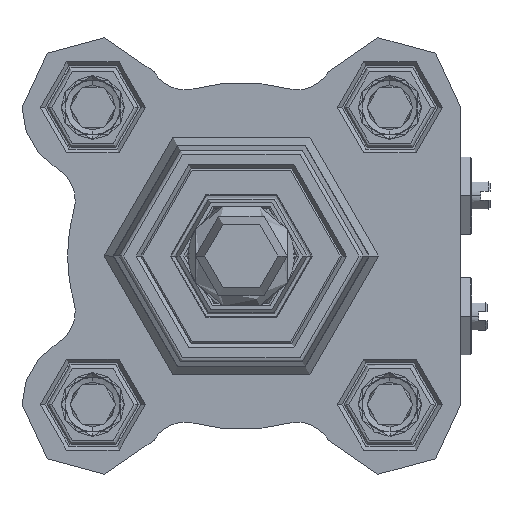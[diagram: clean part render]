
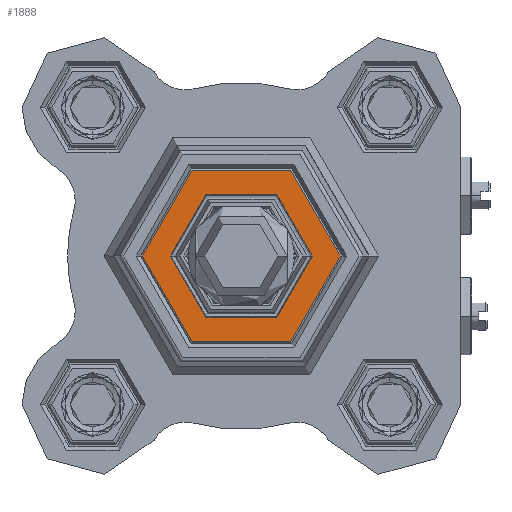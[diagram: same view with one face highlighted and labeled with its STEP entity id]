
A CAD part, front view. The second image highlights one B-rep face of the part: STEP entity #1888.
In plain terms, the highlighted planar face has unit normal (0, -1, 0) as drawn and (0, 0, 1) by its records, which use the part's own axes.
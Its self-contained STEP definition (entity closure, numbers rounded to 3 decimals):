
#1888=ADVANCED_FACE('0:2333',(#3884,#3885),#3886,.F.);
#3884=FACE_OUTER_BOUND('',#6031,.T.);
#3885=FACE_BOUND('',#6032,.T.);
#3886=PLANE('',#6033);
#6031=EDGE_LOOP('',(#11033,#11034));
#6032=EDGE_LOOP('',(#11035,#11036));
#6033=AXIS2_PLACEMENT_3D('',#11037,#11038,#11039);
#11033=ORIENTED_EDGE('',*,*,#14389,.T.);
#11034=ORIENTED_EDGE('',*,*,#13930,.T.);
#11035=ORIENTED_EDGE('',*,*,#13933,.F.);
#11036=ORIENTED_EDGE('',*,*,#14390,.F.);
#11037=CARTESIAN_POINT('',(0.,-10.8,49.6));
#11038=DIRECTION('',(0.0,0.0,-1.0));
#11039=DIRECTION('',(0.0,-1.0,0.0));
#13930=EDGE_CURVE('',#16748,#16750,#16752,.T.);
#13933=EDGE_CURVE('0:3089',#16754,#16757,#16758,.T.);
#14389=EDGE_CURVE('0:3086',#16750,#16748,#17401,.T.);
#14390=EDGE_CURVE('',#16757,#16754,#17402,.T.);
#16748=VERTEX_POINT('',#21162);
#16750=VERTEX_POINT('',#21164);
#16752=CIRCLE('',#21166,10.8);
#16754=VERTEX_POINT('',#21168);
#16757=VERTEX_POINT('',#21172);
#16758=CIRCLE('',#21173,7.75);
#17401=CIRCLE('',#22303,10.8);
#17402=CIRCLE('',#22304,7.75);
#21162=CARTESIAN_POINT('',(10.8,0.,49.6));
#21164=CARTESIAN_POINT('',(-10.8,0.,49.6));
#21166=AXIS2_PLACEMENT_3D('',#25196,#25197,#25198);
#21168=CARTESIAN_POINT('',(-7.75,0.,49.6));
#21172=CARTESIAN_POINT('',(7.75,0.,49.6));
#21173=AXIS2_PLACEMENT_3D('',#25200,#25201,#25202);
#22303=AXIS2_PLACEMENT_3D('',#25806,#25807,#25808);
#22304=AXIS2_PLACEMENT_3D('',#25809,#25810,#25811);
#25196=CARTESIAN_POINT('',(0.,0.,49.6));
#25197=DIRECTION('',(0.0,0.0,1.0));
#25198=DIRECTION('',(-1.0,0.0,0.0));
#25200=CARTESIAN_POINT('',(0.,0.,49.6));
#25201=DIRECTION('',(0.0,0.0,1.0));
#25202=DIRECTION('',(-1.0,0.0,0.0));
#25806=CARTESIAN_POINT('',(0.,0.,49.6));
#25807=DIRECTION('',(0.0,0.0,1.0));
#25808=DIRECTION('',(-1.0,0.0,0.0));
#25809=CARTESIAN_POINT('',(0.,0.,49.6));
#25810=DIRECTION('',(0.0,0.0,1.0));
#25811=DIRECTION('',(-1.0,0.0,0.0));
